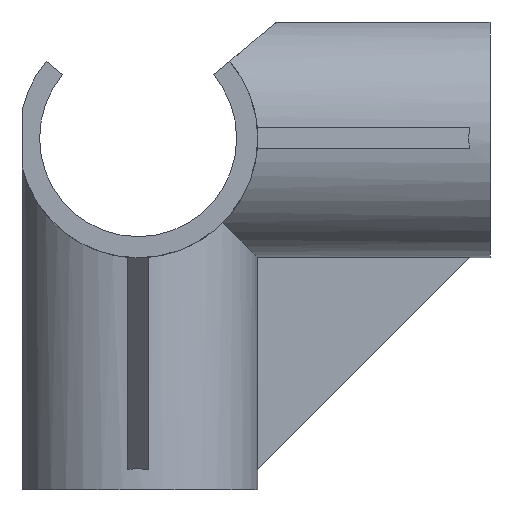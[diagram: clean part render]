
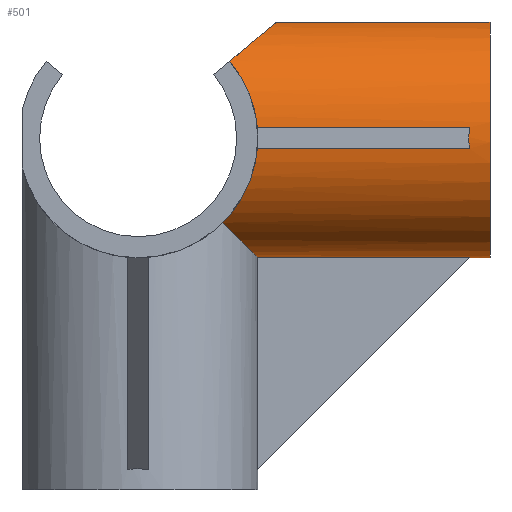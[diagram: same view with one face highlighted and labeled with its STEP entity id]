
A CAD part, front view. The second image highlights one B-rep face of the part: STEP entity #501.
In plain terms, the highlighted cylindrical face has radius 17 mm (diameter 34 mm), a partial arc.
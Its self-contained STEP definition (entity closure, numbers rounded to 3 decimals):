
#15 = EDGE_CURVE ( 'NONE', #714, #823, #1115, .T. ) ;
#35 = CARTESIAN_POINT ( 'NONE',  ( 47.066, -1.5, -16.934 ) ) ;
#36 =( BOUNDED_CURVE ( )  B_SPLINE_CURVE ( 3, ( #227, #910, #994, #820 ),
 .UNSPECIFIED., .F., .T. ) 
 B_SPLINE_CURVE_WITH_KNOTS ( ( 4, 4 ),
 ( 0.088, 0.785 ),
 .UNSPECIFIED. ) 
 CURVE ( )  GEOMETRIC_REPRESENTATION_ITEM ( )  RATIONAL_B_SPLINE_CURVE ( ( 1., 0.96, 0.96, 1. ) ) 
 REPRESENTATION_ITEM ( '' )  );
#61 = CARTESIAN_POINT ( 'NONE',  ( 19.664, -4.093, 16.5 ) ) ;
#64 = VERTEX_POINT ( 'NONE', #1051 ) ;
#73 =( BOUNDED_CURVE ( )  B_SPLINE_CURVE ( 3, ( #797, #303, #1067, #1169 ),
 .UNSPECIFIED., .F., .T. ) 
 B_SPLINE_CURVE_WITH_KNOTS ( ( 4, 4 ),
 ( 3.053, 3.23 ),
 .UNSPECIFIED. ) 
 CURVE ( )  GEOMETRIC_REPRESENTATION_ITEM ( )  RATIONAL_B_SPLINE_CURVE ( ( 1., 0.997, 0.997, 1. ) ) 
 REPRESENTATION_ITEM ( '' )  );
#74 = EDGE_CURVE ( 'NONE', #64, #77, #516, .T. ) ;
#77 = VERTEX_POINT ( 'NONE', #860 ) ;
#121 = CIRCLE ( 'NONE', #858, 17. ) ;
#136 = CARTESIAN_POINT ( 'NONE',  ( -17.001, -1.5, -16.934 ) ) ;
#138 = CARTESIAN_POINT ( 'NONE',  ( 12.021, -12.021, -12.021 ) ) ;
#169 = ORIENTED_EDGE ( 'NONE', *, *, #392, .F. ) ;
#175 = EDGE_CURVE ( 'NONE', #1052, #1098, #73, .T. ) ;
#207 = DIRECTION ( 'NONE',  ( -1., 0., 0. ) ) ;
#218 = CARTESIAN_POINT ( 'NONE',  ( 16.934, -1.5, -16.934 ) ) ;
#227 = CARTESIAN_POINT ( 'NONE',  ( 16.934, -16.934, -1.5 ) ) ;
#255 = LINE ( 'NONE', #842, #1045 ) ;
#263 = VERTEX_POINT ( 'NONE', #138 ) ;
#285 = AXIS2_PLACEMENT_3D ( 'NONE', #302, #980, #577 ) ;
#287 = EDGE_LOOP ( 'NONE', ( #299, #377, #832, #407, #961, #418, #169, #394, #1050, #471, #1063, #1182 ) ) ;
#299 = ORIENTED_EDGE ( 'NONE', *, *, #15, .T. ) ;
#302 = CARTESIAN_POINT ( 'NONE',  ( -17.001, 0., 0. ) ) ;
#303 = CARTESIAN_POINT ( 'NONE',  ( 46.978, -17.022, 0.501 ) ) ;
#341 =( BOUNDED_CURVE ( )  B_SPLINE_CURVE ( 3, ( #218, #608, #986, #1077 ),
 .UNSPECIFIED., .F., .T. ) 
 B_SPLINE_CURVE_WITH_KNOTS ( ( 4, 4 ),
 ( 0.088, 0.785 ),
 .UNSPECIFIED. ) 
 CURVE ( )  GEOMETRIC_REPRESENTATION_ITEM ( )  RATIONAL_B_SPLINE_CURVE ( ( 1., 0.96, 0.96, 1. ) ) 
 REPRESENTATION_ITEM ( '' )  );
#359 = DIRECTION ( 'NONE',  ( 1., 0., 0. ) ) ;
#361 = CARTESIAN_POINT ( 'NONE',  ( 47., 0., -17. ) ) ;
#371 = CARTESIAN_POINT ( 'NONE',  ( 15.279, -15.279, 8.239 ) ) ;
#377 = ORIENTED_EDGE ( 'NONE', *, *, #780, .T. ) ;
#392 = EDGE_CURVE ( 'NONE', #1052, #77, #844, .T. ) ;
#394 = ORIENTED_EDGE ( 'NONE', *, *, #175, .T. ) ;
#407 = ORIENTED_EDGE ( 'NONE', *, *, #499, .T. ) ;
#410 = VECTOR ( 'NONE', #207, 1000. ) ;
#418 = ORIENTED_EDGE ( 'NONE', *, *, #74, .T. ) ;
#434 = VERTEX_POINT ( 'NONE', #549 ) ;
#435 = LINE ( 'NONE', #136, #953 ) ;
#471 = ORIENTED_EDGE ( 'NONE', *, *, #1101, .T. ) ;
#481 = CARTESIAN_POINT ( 'NONE',  ( -17.001, -16.934, 1.5 ) ) ;
#491 = CARTESIAN_POINT ( 'NONE',  ( -17.001, -16.934, -1.5 ) ) ;
#499 = EDGE_CURVE ( 'NONE', #886, #434, #932, .T. ) ;
#501 = ADVANCED_FACE ( 'NONE', ( #1147 ), #877, .T. ) ;
#516 =( BOUNDED_CURVE ( )  B_SPLINE_CURVE ( 3, ( #1226, #371, #1116, #1133 ),
 .UNSPECIFIED., .F., .F. ) 
 B_SPLINE_CURVE_WITH_KNOTS ( ( 4, 4 ),
 ( 5.585, 6.195 ),
 .UNSPECIFIED. ) 
 CURVE ( )  GEOMETRIC_REPRESENTATION_ITEM ( )  RATIONAL_B_SPLINE_CURVE ( ( 1., 0.969, 0.969, 1. ) ) 
 REPRESENTATION_ITEM ( '' )  );
#527 = EDGE_CURVE ( 'NONE', #1098, #742, #1064, .T. ) ;
#549 = CARTESIAN_POINT ( 'NONE',  ( 19.664, -4.093, 16.5 ) ) ;
#567 = CARTESIAN_POINT ( 'NONE',  ( -17.001, -4.093, 16.5 ) ) ;
#571 = CARTESIAN_POINT ( 'NONE',  ( 47.066, -1.5, -16.934 ) ) ;
#575 = DIRECTION ( 'NONE',  ( 0., 0., -1. ) ) ;
#577 = DIRECTION ( 'NONE',  ( 0., 0., -1. ) ) ;
#608 = CARTESIAN_POINT ( 'NONE',  ( 16.578, -5.516, -16.578 ) ) ;
#633 = CARTESIAN_POINT ( 'NONE',  ( 16.334, -10.691, 13.706 ) ) ;
#637 = EDGE_CURVE ( 'NONE', #843, #263, #341, .T. ) ;
#642 = CARTESIAN_POINT ( 'NONE',  ( 50., 0., -17. ) ) ;
#653 = EDGE_CURVE ( 'NONE', #843, #714, #435, .T. ) ;
#654 = CARTESIAN_POINT ( 'NONE',  ( 13.023, -13.023, 10.927 ) ) ;
#661 = CARTESIAN_POINT ( 'NONE',  ( 47.022, -1.001, -16.978 ) ) ;
#714 = VERTEX_POINT ( 'NONE', #35 ) ;
#742 = VERTEX_POINT ( 'NONE', #1215 ) ;
#767 = CARTESIAN_POINT ( 'NONE',  ( 47., -0.501, -17. ) ) ;
#780 = EDGE_CURVE ( 'NONE', #823, #876, #255, .T. ) ;
#797 = CARTESIAN_POINT ( 'NONE',  ( 47.066, -16.934, 1.5 ) ) ;
#819 =( BOUNDED_CURVE ( )  B_SPLINE_CURVE ( 3, ( #654, #633, #1099, #61 ),
 .UNSPECIFIED., .F., .T. ) 
 B_SPLINE_CURVE_WITH_KNOTS ( ( 4, 4 ),
 ( 5.411, 6.04 ),
 .UNSPECIFIED. ) 
 CURVE ( )  GEOMETRIC_REPRESENTATION_ITEM ( )  RATIONAL_B_SPLINE_CURVE ( ( 1., 0.967, 0.967, 1. ) ) 
 REPRESENTATION_ITEM ( '' )  );
#820 = CARTESIAN_POINT ( 'NONE',  ( 12.021, -12.021, -12.021 ) ) ;
#823 = VERTEX_POINT ( 'NONE', #924 ) ;
#832 = ORIENTED_EDGE ( 'NONE', *, *, #951, .F. ) ;
#842 = CARTESIAN_POINT ( 'NONE',  ( -17.001, 0., -17. ) ) ;
#843 = VERTEX_POINT ( 'NONE', #1112 ) ;
#844 = LINE ( 'NONE', #481, #1204 ) ;
#858 = AXIS2_PLACEMENT_3D ( 'NONE', #1253, #1246, #575 ) ;
#860 = CARTESIAN_POINT ( 'NONE',  ( 16.934, -16.934, 1.5 ) ) ;
#865 = DIRECTION ( 'NONE',  ( -1., 0., 0. ) ) ;
#876 = VERTEX_POINT ( 'NONE', #642 ) ;
#877 = CYLINDRICAL_SURFACE ( 'NONE', #285, 17. ) ;
#886 = VERTEX_POINT ( 'NONE', #960 ) ;
#891 = CARTESIAN_POINT ( 'NONE',  ( 47.066, -16.934, 1.5 ) ) ;
#910 = CARTESIAN_POINT ( 'NONE',  ( 16.578, -16.578, -5.516 ) ) ;
#918 = DIRECTION ( 'NONE',  ( 1., 0., 0. ) ) ;
#924 = CARTESIAN_POINT ( 'NONE',  ( 47., 0., -17. ) ) ;
#932 = LINE ( 'NONE', #567, #1166 ) ;
#951 = EDGE_CURVE ( 'NONE', #886, #876, #121, .T. ) ;
#953 = VECTOR ( 'NONE', #918, 1000. ) ;
#960 = CARTESIAN_POINT ( 'NONE',  ( 50., -4.093, 16.5 ) ) ;
#961 = ORIENTED_EDGE ( 'NONE', *, *, #1156, .F. ) ;
#966 = DIRECTION ( 'NONE',  ( -1., 0., 0. ) ) ;
#980 = DIRECTION ( 'NONE',  ( 1., 0., 0. ) ) ;
#984 = CARTESIAN_POINT ( 'NONE',  ( 47.066, -16.934, -1.5 ) ) ;
#986 = CARTESIAN_POINT ( 'NONE',  ( 14.872, -9.17, -14.872 ) ) ;
#994 = CARTESIAN_POINT ( 'NONE',  ( 14.872, -14.872, -9.17 ) ) ;
#1045 = VECTOR ( 'NONE', #359, 1000. ) ;
#1050 = ORIENTED_EDGE ( 'NONE', *, *, #527, .T. ) ;
#1051 = CARTESIAN_POINT ( 'NONE',  ( 13.023, -13.023, 10.927 ) ) ;
#1052 = VERTEX_POINT ( 'NONE', #891 ) ;
#1063 = ORIENTED_EDGE ( 'NONE', *, *, #637, .F. ) ;
#1064 = LINE ( 'NONE', #491, #410 ) ;
#1067 = CARTESIAN_POINT ( 'NONE',  ( 46.978, -17.022, -0.501 ) ) ;
#1077 = CARTESIAN_POINT ( 'NONE',  ( 12.021, -12.021, -12.021 ) ) ;
#1098 = VERTEX_POINT ( 'NONE', #984 ) ;
#1099 = CARTESIAN_POINT ( 'NONE',  ( 18.623, -7.614, 15.627 ) ) ;
#1101 = EDGE_CURVE ( 'NONE', #742, #263, #36, .T. ) ;
#1112 = CARTESIAN_POINT ( 'NONE',  ( 16.934, -1.5, -16.934 ) ) ;
#1115 =( BOUNDED_CURVE ( )  B_SPLINE_CURVE ( 3, ( #571, #661, #767, #361 ),
 .UNSPECIFIED., .F., .T. ) 
 B_SPLINE_CURVE_WITH_KNOTS ( ( 4, 4 ),
 ( 3.053, 3.142 ),
 .UNSPECIFIED. ) 
 CURVE ( )  GEOMETRIC_REPRESENTATION_ITEM ( )  RATIONAL_B_SPLINE_CURVE ( ( 1., 0.999, 0.999, 1. ) ) 
 REPRESENTATION_ITEM ( '' )  );
#1116 = CARTESIAN_POINT ( 'NONE',  ( 16.624, -16.624, 4.996 ) ) ;
#1133 = CARTESIAN_POINT ( 'NONE',  ( 16.934, -16.934, 1.5 ) ) ;
#1147 = FACE_OUTER_BOUND ( 'NONE', #287, .T. ) ;
#1156 = EDGE_CURVE ( 'NONE', #64, #434, #819, .T. ) ;
#1166 = VECTOR ( 'NONE', #966, 1000. ) ;
#1169 = CARTESIAN_POINT ( 'NONE',  ( 47.066, -16.934, -1.5 ) ) ;
#1182 = ORIENTED_EDGE ( 'NONE', *, *, #653, .T. ) ;
#1204 = VECTOR ( 'NONE', #865, 1000. ) ;
#1215 = CARTESIAN_POINT ( 'NONE',  ( 16.934, -16.934, -1.5 ) ) ;
#1226 = CARTESIAN_POINT ( 'NONE',  ( 13.023, -13.023, 10.927 ) ) ;
#1246 = DIRECTION ( 'NONE',  ( 1., 0., 0. ) ) ;
#1253 = CARTESIAN_POINT ( 'NONE',  ( 50., 0., 0. ) ) ;
